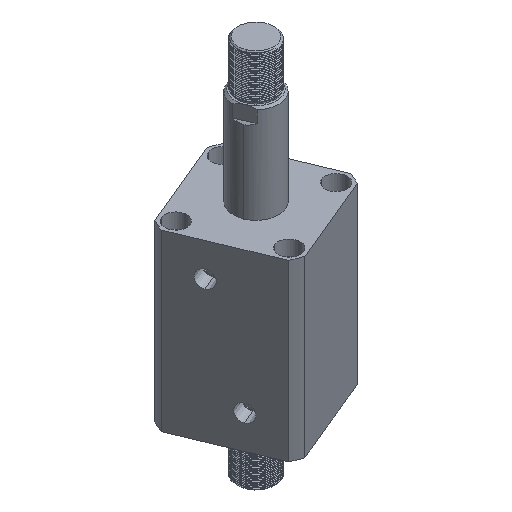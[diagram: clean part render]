
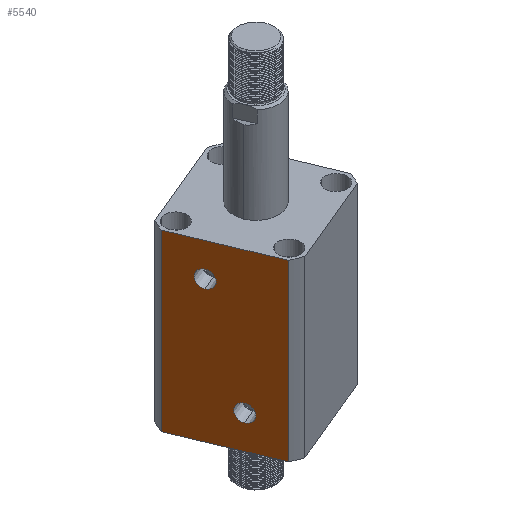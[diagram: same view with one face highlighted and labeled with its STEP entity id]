
A CAD part, isometric view. The second image highlights one B-rep face of the part: STEP entity #5540.
In plain terms, the highlighted planar face has unit normal (-0.924, -0.383, 0) as drawn and (0, -1, 0) by its records, which use the part's own axes.
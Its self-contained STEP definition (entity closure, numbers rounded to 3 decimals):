
#64 = CARTESIAN_POINT ( 'NONE',  ( -57., -57., 173. ) ) ;
#376 = VERTEX_POINT ( 'NONE', #2607 ) ;
#1528 = CARTESIAN_POINT ( 'NONE',  ( -57., -57., 173. ) ) ;
#1676 = CARTESIAN_POINT ( 'NONE',  ( 47.971, -57., 173. ) ) ;
#1698 = VERTEX_POINT ( 'NONE', #1676 ) ;
#2112 = DIRECTION ( 'NONE',  ( 1., 0., 0. ) ) ;
#2235 = CARTESIAN_POINT ( 'NONE',  ( -47.971, -57., 173. ) ) ;
#2455 = CARTESIAN_POINT ( 'NONE',  ( -15., -57., 140. ) ) ;
#2607 = CARTESIAN_POINT ( 'NONE',  ( 15., -57., 24.572 ) ) ;
#2679 = EDGE_CURVE ( 'NONE', #1698, #3164, #24756, .T. ) ;
#2924 = VECTOR ( 'NONE', #25346, 1000. ) ;
#2987 = DIRECTION ( 'NONE',  ( 0., -1., 0. ) ) ;
#3077 = ORIENTED_EDGE ( 'NONE', *, *, #4391, .F. ) ;
#3164 = VERTEX_POINT ( 'NONE', #3432 ) ;
#3432 = CARTESIAN_POINT ( 'NONE',  ( 47.971, -57., 0. ) ) ;
#3708 = VECTOR ( 'NONE', #24281, 1000. ) ;
#4006 = ORIENTED_EDGE ( 'NONE', *, *, #12728, .F. ) ;
#4328 = CARTESIAN_POINT ( 'NONE',  ( 15., -57., 33. ) ) ;
#4391 = EDGE_CURVE ( 'NONE', #376, #14070, #9622, .T. ) ;
#4485 = DIRECTION ( 'NONE',  ( 0., 0., -1. ) ) ;
#4943 = ORIENTED_EDGE ( 'NONE', *, *, #17444, .F. ) ;
#5540 = ADVANCED_FACE ( 'NONE', ( #14317, #8938, #8301 ), #21642, .F. ) ;
#5608 = DIRECTION ( 'NONE',  ( 0., 1., 0. ) ) ;
#5804 = CARTESIAN_POINT ( 'NONE',  ( 47.971, -57., -127. ) ) ;
#6360 = DIRECTION ( 'NONE',  ( 0., 0., -1. ) ) ;
#6503 = CARTESIAN_POINT ( 'NONE',  ( 15., -57., 41.428 ) ) ;
#6850 = ORIENTED_EDGE ( 'NONE', *, *, #25362, .T. ) ;
#7233 = CARTESIAN_POINT ( 'NONE',  ( -47.971, -57., 0. ) ) ;
#7418 = VECTOR ( 'NONE', #2112, 1000. ) ;
#7856 = VERTEX_POINT ( 'NONE', #7233 ) ;
#8301 = FACE_OUTER_BOUND ( 'NONE', #13178, .T. ) ;
#8316 = LINE ( 'NONE', #23242, #2924 ) ;
#8435 = ORIENTED_EDGE ( 'NONE', *, *, #19821, .F. ) ;
#8644 = EDGE_LOOP ( 'NONE', ( #3077, #4943 ) ) ;
#8938 = FACE_BOUND ( 'NONE', #8644, .T. ) ;
#9155 = VERTEX_POINT ( 'NONE', #12569 ) ;
#9622 = CIRCLE ( 'NONE', #11644, 8.428 ) ;
#10206 = CARTESIAN_POINT ( 'NONE',  ( -57., -57., 0. ) ) ;
#10724 = CARTESIAN_POINT ( 'NONE',  ( 15., -57., 33. ) ) ;
#11625 = EDGE_LOOP ( 'NONE', ( #8435, #20411 ) ) ;
#11644 = AXIS2_PLACEMENT_3D ( 'NONE', #10724, #24808, #12758 ) ;
#12569 = CARTESIAN_POINT ( 'NONE',  ( -15., -57., 131.572 ) ) ;
#12728 = EDGE_CURVE ( 'NONE', #23194, #1698, #18142, .T. ) ;
#12758 = DIRECTION ( 'NONE',  ( 0., 0., -1. ) ) ;
#13178 = EDGE_LOOP ( 'NONE', ( #16962, #6850, #24831, #4006 ) ) ;
#13241 = EDGE_CURVE ( 'NONE', #21182, #9155, #17177, .T. ) ;
#14070 = VERTEX_POINT ( 'NONE', #6503 ) ;
#14238 = EDGE_CURVE ( 'NONE', #7856, #23194, #8316, .T. ) ;
#14317 = FACE_BOUND ( 'NONE', #11625, .T. ) ;
#15114 = CARTESIAN_POINT ( 'NONE',  ( -15., -57., 140. ) ) ;
#15542 = AXIS2_PLACEMENT_3D ( 'NONE', #1528, #5608, #19716 ) ;
#16598 = DIRECTION ( 'NONE',  ( 0., -1., 0. ) ) ;
#16962 = ORIENTED_EDGE ( 'NONE', *, *, #14238, .F. ) ;
#17116 = DIRECTION ( 'NONE',  ( 0., 0., -1. ) ) ;
#17177 = CIRCLE ( 'NONE', #17683, 8.428 ) ;
#17444 = EDGE_CURVE ( 'NONE', #14070, #376, #24950, .T. ) ;
#17683 = AXIS2_PLACEMENT_3D ( 'NONE', #2455, #16598, #4485 ) ;
#18142 = LINE ( 'NONE', #64, #7418 ) ;
#18461 = DIRECTION ( 'NONE',  ( 0., -1., 0. ) ) ;
#19716 = DIRECTION ( 'NONE',  ( 0., 0., 1. ) ) ;
#19821 = EDGE_CURVE ( 'NONE', #9155, #21182, #23697, .T. ) ;
#19870 = CARTESIAN_POINT ( 'NONE',  ( -15., -57., 148.428 ) ) ;
#19914 = DIRECTION ( 'NONE',  ( 0., 0., -1. ) ) ;
#20043 = VECTOR ( 'NONE', #19914, 1000. ) ;
#20411 = ORIENTED_EDGE ( 'NONE', *, *, #13241, .F. ) ;
#20450 = AXIS2_PLACEMENT_3D ( 'NONE', #15114, #2987, #17116 ) ;
#21182 = VERTEX_POINT ( 'NONE', #19870 ) ;
#21642 = PLANE ( 'NONE',  #15542 ) ;
#23194 = VERTEX_POINT ( 'NONE', #2235 ) ;
#23242 = CARTESIAN_POINT ( 'NONE',  ( -47.971, -57., -127. ) ) ;
#23312 = AXIS2_PLACEMENT_3D ( 'NONE', #4328, #18461, #6360 ) ;
#23697 = CIRCLE ( 'NONE', #20450, 8.428 ) ;
#23909 = LINE ( 'NONE', #10206, #3708 ) ;
#24281 = DIRECTION ( 'NONE',  ( 1., 0., 0. ) ) ;
#24756 = LINE ( 'NONE', #5804, #20043 ) ;
#24808 = DIRECTION ( 'NONE',  ( 0., -1., 0. ) ) ;
#24831 = ORIENTED_EDGE ( 'NONE', *, *, #2679, .F. ) ;
#24950 = CIRCLE ( 'NONE', #23312, 8.428 ) ;
#25346 = DIRECTION ( 'NONE',  ( 0., 0., 1. ) ) ;
#25362 = EDGE_CURVE ( 'NONE', #7856, #3164, #23909, .T. ) ;
